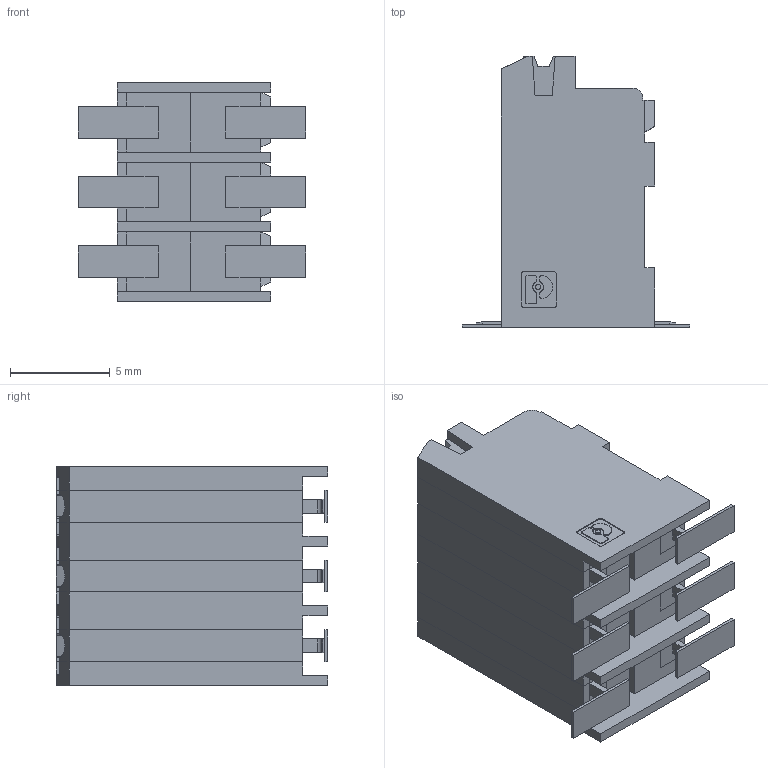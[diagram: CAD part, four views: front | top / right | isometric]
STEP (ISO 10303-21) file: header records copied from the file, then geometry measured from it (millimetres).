
FILE_DESCRIPTION(('SolidDesigner STEP Export'),'2;1');
FILE_NAME('spt-smd_1.5-3-v_3.5.stp','2014-11-14T10:05:13',(''),(''),'Creo Elements/Direct Modeling STEP processor for AP214 (Solid Model)','Creo Elements/Direct Modeling 18.1B 29-Sep-2012 (C) Parametric Technology GmbH','');
FILE_SCHEMA(('AUTOMOTIVE_DESIGN { 1 0 10303 214 1 1 1 1 }'));
Length unit declared in the file: millimetre
Products named in the file (2): spt-smd_1.5-3-v_3.5
Assembly tree (1 placements, depth 2):
  spt-smd_1.5-3-v_3.5
    spt-smd_1.5-3-v_3.5
Bounding box: 11.4 x 13.62 x 11 mm (x, y, z)
Volume: 869.5 mm3; surface area: 978.2 mm2
Topology: 1 solids, 1 shells, 517 faces, 1357 edges, 860 vertices
Faces by surface type: plane 379, bspline 61, cylinder 40, extrusion 37
Entity records: 23333 total; most frequent: CARTESIAN_POINT 8075, ORIENTED_EDGE 2714, DIRECTION 1847, EDGE_CURVE 1357, VECTOR 991, LINE 960, VERTEX_POINT 860, EDGE_LOOP 535
